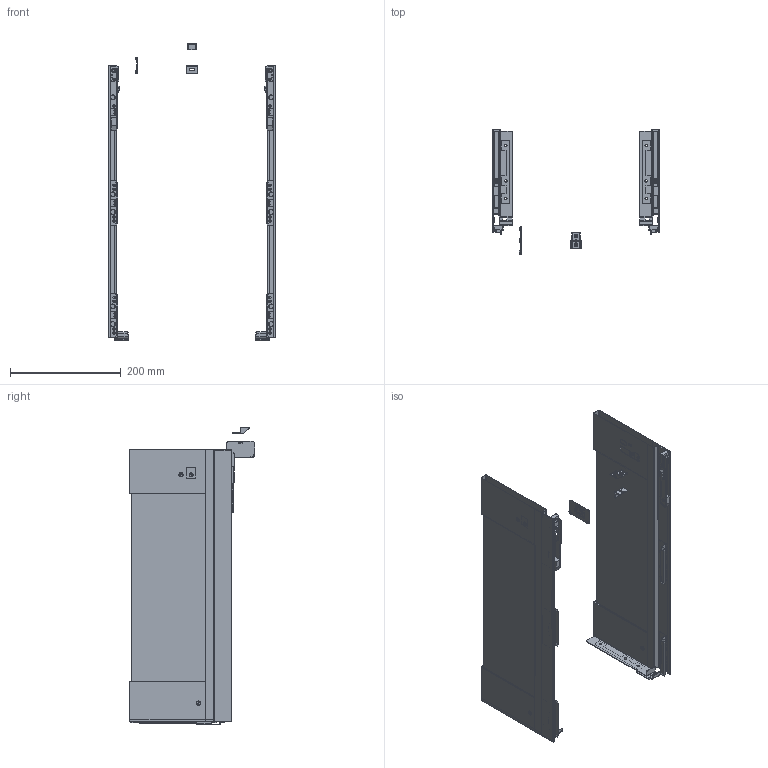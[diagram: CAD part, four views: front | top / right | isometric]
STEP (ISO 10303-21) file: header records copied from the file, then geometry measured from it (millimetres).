
FILE_DESCRIPTION (( 'STEP AP203' ), '1' );
FILE_NAME ('502936.STEP', '2026-03-06T07:59:50', ( '' ), ( '' ), 'SwSTEP 2.0', 'SolidWorks 2025', '' );
FILE_SCHEMA (( 'CONFIG_CONTROL_DESIGN' ));
Length unit declared in the file: millimetre
Products named in the file (6): StrongMax 16a18 krytka pro tisk, plast; 502936; StrongMax 16a18 + StrongBox podpěrka dna, široké zásuvky, přední; StrongMax 16a18 podpěrka dna, široké zásuvky, zadní; Bočnice_sklo_pravá_18-185-500; Bočnice_sklo_levá_18-185-500
Assembly tree (5 placements, depth 2):
  502936
    Bočnice_sklo_levá_18-185-500
    Bočnice_sklo_pravá_18-185-500
    StrongMax 16a18 + StrongBox podpěrka dna, široké zásuvky, přední
    StrongMax 16a18 krytka pro tisk, plast
    StrongMax 16a18 podpěrka dna, široké zásuvky, zadní
Bounding box: 300 x 226.5 x 535.9 mm (x, y, z)
Volume: 948680.7 mm3; surface area: 645182.8 mm2
Topology: 31 solids, 31 shells, 1871 faces, 5014 edges, 3186 vertices
Faces by surface type: plane 1234, cylinder 524, bspline 97, cone 16
Entity records: 61162 total; most frequent: CARTESIAN_POINT 13782, ORIENTED_EDGE 10028, DIRECTION 9262, EDGE_CURVE 5014, LINE 3722, VECTOR 3722, VERTEX_POINT 3186, AXIS2_PLACEMENT_3D 2770
